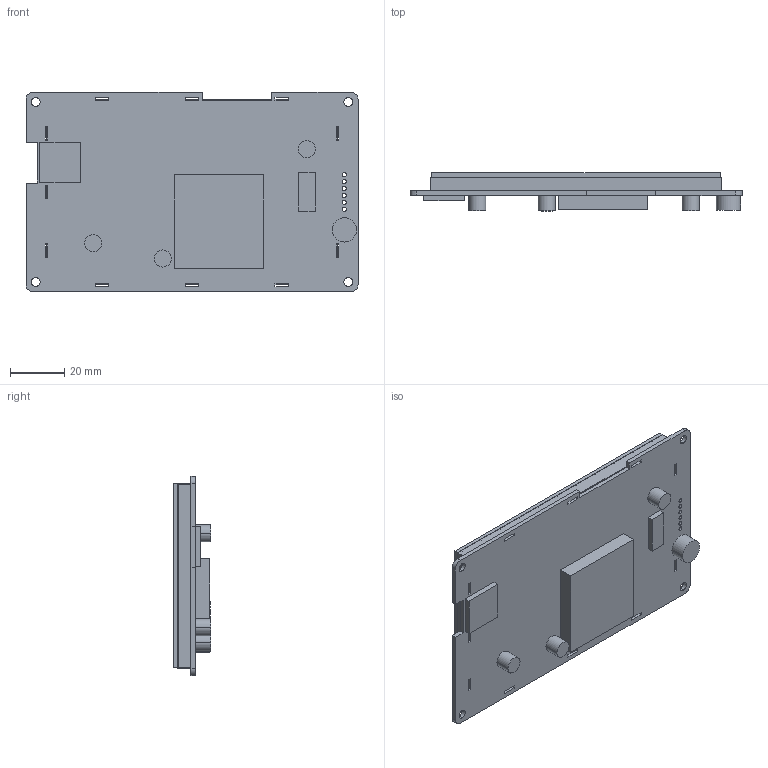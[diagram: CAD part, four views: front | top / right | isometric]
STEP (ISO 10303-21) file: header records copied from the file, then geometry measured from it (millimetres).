
FILE_DESCRIPTION((''),'2;1');
FILE_NAME('DMG48270C043-03WTR','2022-09-06T',('Administrator'),(''),'PRO/ENGINEER BY PARAMETRIC TECHNOLOGY CORPORATION, 2011310','PRO/ENGINEER BY PARAMETRIC TECHNOLOGY CORPORATION, 2011310','');
FILE_SCHEMA(('CONFIG_CONTROL_DESIGN'));
Length unit declared in the file: millimetre
Products named in the file (1): DMG48270C043-03WTR
Bounding box: 121.92 x 13.85 x 73.15 mm (x, y, z)
Volume: 53887.1 mm3; surface area: 50589.6 mm2
Topology: 1 solids, 3 shells, 153 faces, 420 edges, 272 vertices
Faces by surface type: plane 121, cylinder 32
Entity records: 4904 total; most frequent: CARTESIAN_POINT 845, ORIENTED_EDGE 840, DIRECTION 790, EDGE_CURVE 420, VECTOR 356, LINE 356, VERTEX_POINT 272, AXIS2_PLACEMENT_3D 217
